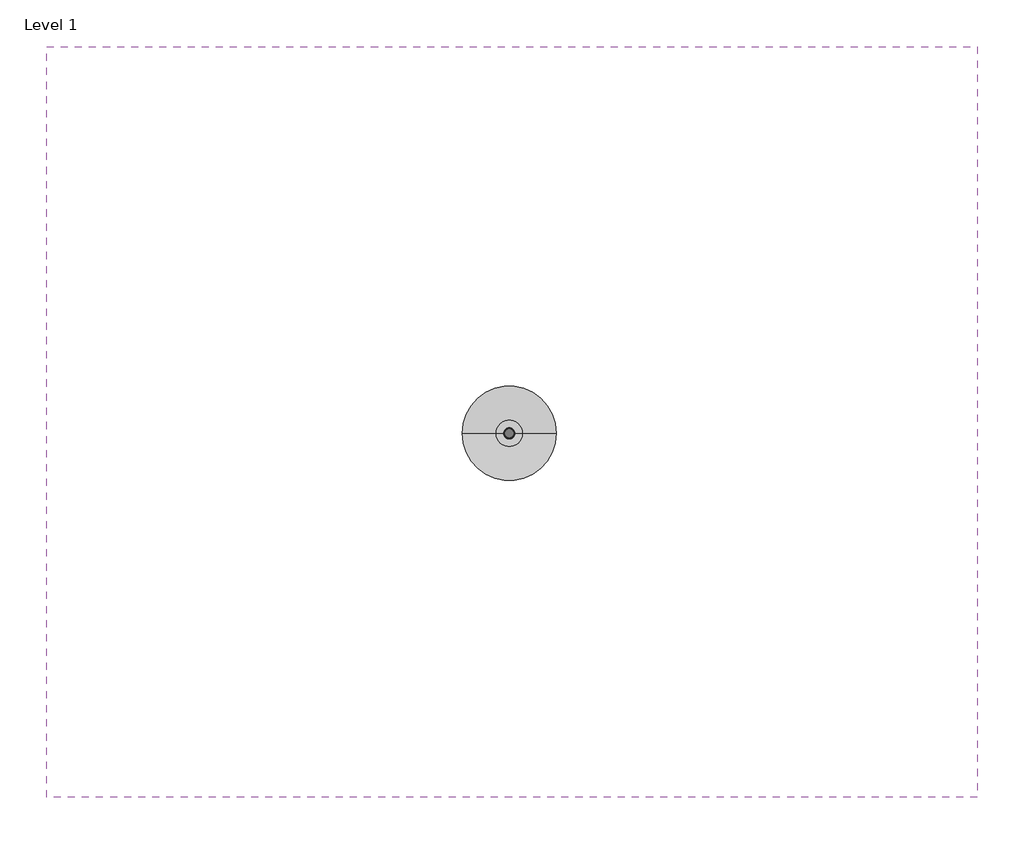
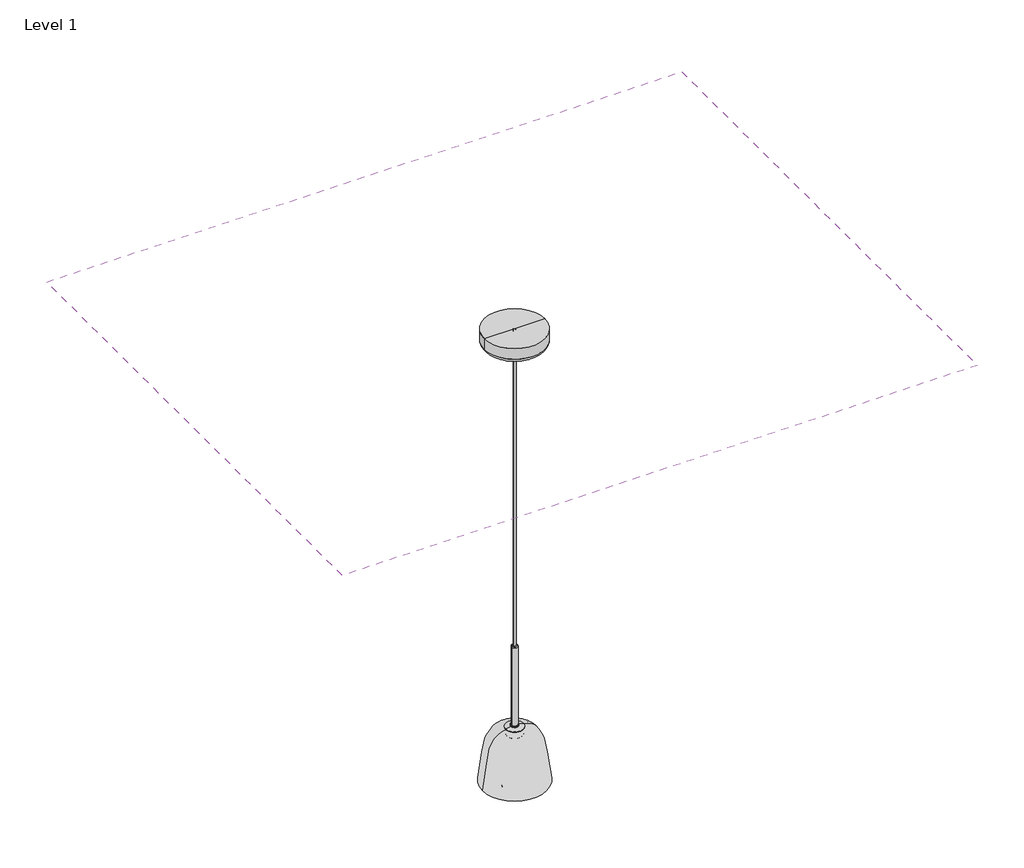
# One storey: 1 covering, 1 light fixture.
"""IFC4 building model written with IfcOpenShell, lengths in millimetres."""

from ifc_helpers import new_model, si_unit, frame, origin, place, context, project, spatial, polyline, outline, extrude, transform, mapped, element, save
from components import light_fixture_2cd5fa0e

model = new_model("IFC4")

# Units and contexts
model_context = context("Model", 3, world=origin())
ifc_project = project(units=[si_unit("LENGTHUNIT", "METRE", prefix="MILLI")], contexts=[model_context])

# Site, building, storey
site = spatial("IfcSite", under=ifc_project)
building = spatial("IfcBuilding", under=site)
storey = spatial("IfcBuildingStorey", under=building, Name="Level 1", Elevation=0.0)

# Covering
placement = place(None, origin())
element("IfcCovering", 1, ObjectType="600 x 1200mm Grid", at=placement, inside=storey, context=model_context, shape_type="SweptSolid", body=[
    extrude(outline(polyline([(-13240.883584, 6561.1087432), (-13240.883584, 5561.1087432), (-14480.883584, 5561.1087432), (-14480.883584, 6561.1087432), (-13240.883584, 6561.1087432)])), frame((0.0, 0.0, 2000.0), z_axis=(0.0, 0.0, 1.0), x_axis=(1.0, 0.0, 0.0)), (0.0, 0.0, 1.0), 52.0),
])

# Light fixture
light_fixture_shape = light_fixture_2cd5fa0e(model_context)
element("IfcLightFixture", 2, ObjectType="Nuura - Asteea 1 - Ceiling Based : Nuura - Asteea 1 - Ceiling Based", at=placement, inside=storey, context=model_context, shape_type="MappedRepresentation", body=[
    mapped(light_fixture_shape, transform((-13864.5490827, 6046.1064861, -438.4), x_axis=(1.0, 0.0, 0.0), y_axis=(0.0, 1.0, 0.0), z_axis=(0.0, 0.0, 1.0))),
])

save(model, "model.ifc")
